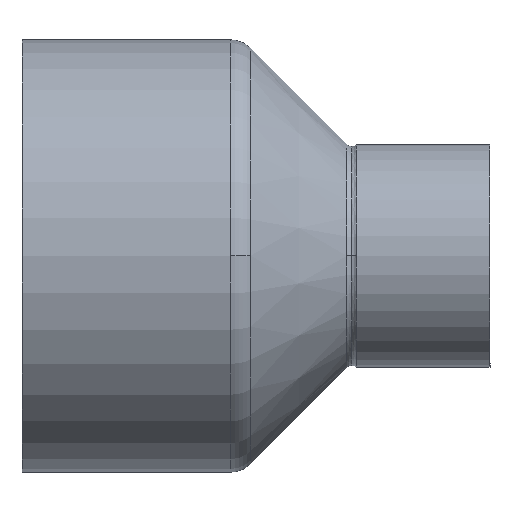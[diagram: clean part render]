
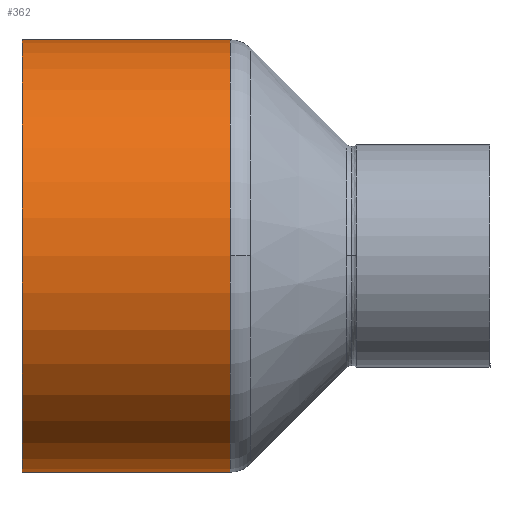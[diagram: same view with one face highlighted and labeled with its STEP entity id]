
A CAD part, top view. The second image highlights one B-rep face of the part: STEP entity #362.
In plain terms, the highlighted cylindrical face has radius 38.05 mm (diameter 76.1 mm), a partial arc.
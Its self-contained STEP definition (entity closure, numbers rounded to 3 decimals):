
#312=CARTESIAN_POINT('',(18.355,0.0,0.0));
#313=DIRECTION('',(1.0,0.0,0.0));
#314=DIRECTION('',(0.0,1.0,0.0));
#315=AXIS2_PLACEMENT_3D('',#312,#313,#314);
#316=CYLINDRICAL_SURFACE('',#315,38.05);
#317=CARTESIAN_POINT('',(0.,38.05,0.0));
#318=VERTEX_POINT('',#317);
#319=CARTESIAN_POINT('',(36.709,38.05,0.0));
#320=VERTEX_POINT('',#319);
#321=CARTESIAN_POINT('',(0.,38.05,0.0));
#322=DIRECTION('',(1.0,0.0,0.0));
#323=VECTOR('',#322,36.709);
#324=LINE('',#321,#323);
#325=EDGE_CURVE('',#318,#320,#324,.T.);
#326=ORIENTED_EDGE('',*,*,#325,.F.);
#327=CARTESIAN_POINT('',(0.,-38.05,0.));
#328=VERTEX_POINT('',#327);
#329=CARTESIAN_POINT('',(0.,0.0,0.0));
#330=DIRECTION('',(1.0,0.0,0.0));
#331=DIRECTION('',(0.0,1.0,0.0));
#332=AXIS2_PLACEMENT_3D('',#329,#330,#331);
#333=CIRCLE('',#332,38.05);
#334=EDGE_CURVE('',#318,#328,#333,.T.);
#335=ORIENTED_EDGE('',*,*,#334,.T.);
#336=CARTESIAN_POINT('',(36.709,-38.05,0.));
#337=VERTEX_POINT('',#336);
#338=CARTESIAN_POINT('',(36.709,-38.05,0.));
#339=DIRECTION('',(-1.0,0.0,0.0));
#340=VECTOR('',#339,36.709);
#341=LINE('',#338,#340);
#342=EDGE_CURVE('',#337,#328,#341,.T.);
#343=ORIENTED_EDGE('',*,*,#342,.F.);
#344=CARTESIAN_POINT('',(36.709,0.,38.05));
#345=VERTEX_POINT('',#344);
#346=CARTESIAN_POINT('',(36.709,0.0,0.0));
#347=DIRECTION('',(1.0,0.0,0.0));
#348=DIRECTION('',(0.0,1.0,0.0));
#349=AXIS2_PLACEMENT_3D('',#346,#347,#348);
#350=CIRCLE('',#349,38.05);
#351=EDGE_CURVE('',#345,#337,#350,.T.);
#352=ORIENTED_EDGE('',*,*,#351,.F.);
#353=CARTESIAN_POINT('',(36.709,0.0,0.0));
#354=DIRECTION('',(1.0,0.0,0.0));
#355=DIRECTION('',(0.0,1.0,0.0));
#356=AXIS2_PLACEMENT_3D('',#353,#354,#355);
#357=CIRCLE('',#356,38.05);
#358=EDGE_CURVE('',#320,#345,#357,.T.);
#359=ORIENTED_EDGE('',*,*,#358,.F.);
#360=EDGE_LOOP('',(#326,#335,#343,#352,#359));
#361=FACE_OUTER_BOUND('',#360,.T.);
#362=ADVANCED_FACE('',(#361),#316,.T.);
